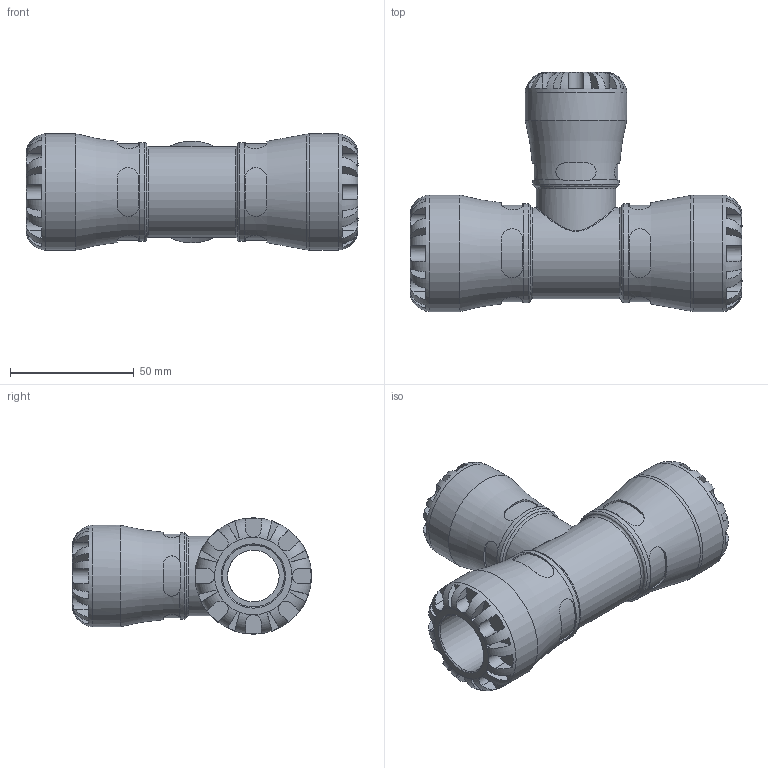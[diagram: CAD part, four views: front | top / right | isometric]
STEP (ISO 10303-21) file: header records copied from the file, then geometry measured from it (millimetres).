
FILE_DESCRIPTION(/* description */ ('PLASSON REDUCING TEE 25X20X25 SERIES 1'),/* implementation_level */ '2;1');
FILE_NAME(/* name */ 'C:\Dropbox\KIMPROJECTS-Inventor\99-16-3568-Processing\1034\103400025020_193400025020.ipt.stp',/* time_stamp */ '2017-01-22T11:40:36+02:00',/* author */ ('KIM'),/* organization */ (''),/* preprocessor_version */ 'ST-DEVELOPER v15.6',/* originating_system */ 'Autodesk Inventor 2015',/* authorisation */ '');
FILE_SCHEMA (('AUTOMOTIVE_DESIGN { 1 0 10303 214 3 1 1 }'));
Length unit declared in the file: millimetre
Products named in the file (1): 103400025020_193400025020
Bounding box: 134 x 96.5 x 47 mm (x, y, z)
Volume: 159110.3 mm3; surface area: 43883.1 mm2
Topology: 1 solids, 1 shells, 287 faces, 741 edges, 465 vertices
Faces by surface type: plane 174, cylinder 97, torus 13, cone 2, bspline 1
Full cylindrical faces by diameter (mm): 16.667 x1, 20 x1, 20.833 x1, 25 x2, 31.98 x1, 34.85 x1, 36.66 x1, 39.95 x2, 41 x1, 47 x2
Entity records: 11372 total; most frequent: CARTESIAN_POINT 4510, ORIENTED_EDGE 1386, DIRECTION 1314, EDGE_CURVE 693, AXIS2_PLACEMENT_3D 537, VERTEX_POINT 448, EDGE_LOOP 331, STYLED_ITEM 288
